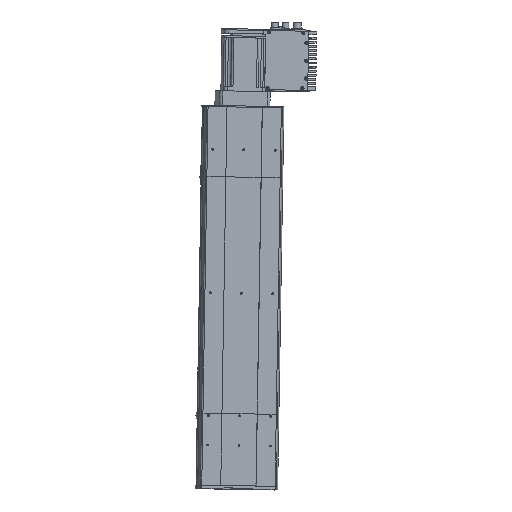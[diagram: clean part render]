
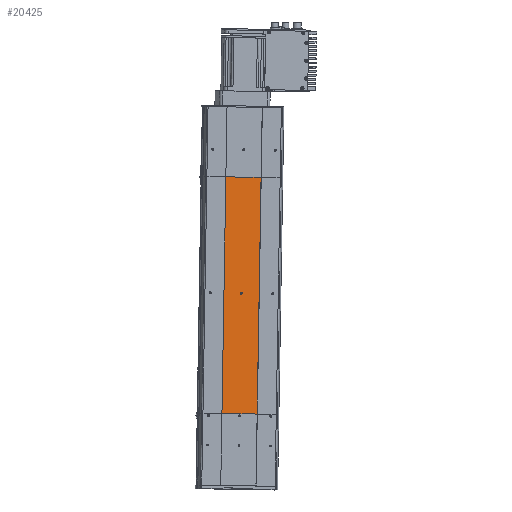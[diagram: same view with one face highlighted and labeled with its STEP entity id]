
A CAD part, front view. The second image highlights one B-rep face of the part: STEP entity #20425.
In plain terms, the highlighted planar face has unit normal (0.098, -0.995, 0.002) as drawn and (0, -1, 0) by its records, which use the part's own axes.
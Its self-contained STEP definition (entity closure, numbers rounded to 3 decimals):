
#7171 = CARTESIAN_POINT ( 'NONE',  ( -30., -32.5, 350. ) ) ;
#7268 = CARTESIAN_POINT ( 'NONE',  ( -30., -32.5, -50. ) ) ;
#7615 = DIRECTION ( 'NONE',  ( 0., 0., -1. ) ) ;
#7616 = VECTOR ( 'NONE', #7615, 1000. ) ;
#7617 = CARTESIAN_POINT ( 'NONE',  ( 30., -32.5, 350. ) ) ;
#7620 = LINE ( 'NONE', #7617, #7616 ) ;
#7691 = DIRECTION ( 'NONE',  ( 0., 0., -1. ) ) ;
#7692 = DIRECTION ( 'NONE',  ( 0., -1., 0. ) ) ;
#7694 = CARTESIAN_POINT ( 'NONE',  ( 0., -32.5, 153.7 ) ) ;
#7696 = AXIS2_PLACEMENT_3D ( 'NONE', #7694, #7692, #7691 ) ;
#7698 = CIRCLE ( 'NONE', #7696, 1.6 ) ;
#7796 = DIRECTION ( 'NONE',  ( 0., 0., -1. ) ) ;
#7797 = VECTOR ( 'NONE', #7796, 1000. ) ;
#7799 = CARTESIAN_POINT ( 'NONE',  ( -30., -32.5, 350. ) ) ;
#7809 = LINE ( 'NONE', #7799, #7797 ) ;
#18689 = ORIENTED_EDGE ( 'NONE', *, *, #33734, .F. ) ;
#20415 = EDGE_CURVE ( 'NONE', #33805, #20460, #57400, .T. ) ;
#20421 = VERTEX_POINT ( 'NONE', #57395 ) ;
#20424 = ORIENTED_EDGE ( 'NONE', *, *, #20440, .F. ) ;
#20425 = ADVANCED_FACE ( 'NONE', ( #57535, #57529 ), #57524, .F. ) ;
#20431 = EDGE_LOOP ( 'NONE', ( #20439, #18689, #20424, #20673 ) ) ;
#20439 = ORIENTED_EDGE ( 'NONE', *, *, #20415, .T. ) ;
#20440 = EDGE_CURVE ( 'NONE', #33670, #20421, #57606, .T. ) ;
#20460 = VERTEX_POINT ( 'NONE', #57759 ) ;
#20673 = ORIENTED_EDGE ( 'NONE', *, *, #33754, .T. ) ;
#22832 = DIRECTION ( 'NONE',  ( 0., 0., -1. ) ) ;
#22833 = DIRECTION ( 'NONE',  ( 0., -1., 0. ) ) ;
#22834 = CARTESIAN_POINT ( 'NONE',  ( 0., -32.5, 153.7 ) ) ;
#22835 = AXIS2_PLACEMENT_3D ( 'NONE', #22834, #22833, #22832 ) ;
#22838 = CIRCLE ( 'NONE', #22835, 1.6 ) ;
#23096 = CARTESIAN_POINT ( 'NONE',  ( 0., -32.5, 152.1 ) ) ;
#23518 = CARTESIAN_POINT ( 'NONE',  ( 0., -32.5, 155.3 ) ) ;
#23642 = EDGE_LOOP ( 'NONE', ( #33774, #33742 ) ) ;
#33670 = VERTEX_POINT ( 'NONE', #7171 ) ;
#33734 = EDGE_CURVE ( 'NONE', #20421, #20460, #7620, .T. ) ;
#33742 = ORIENTED_EDGE ( 'NONE', *, *, #45484, .F. ) ;
#33751 = EDGE_CURVE ( 'NONE', #45522, #45626, #7698, .T. ) ;
#33754 = EDGE_CURVE ( 'NONE', #33670, #33805, #7809, .T. ) ;
#33774 = ORIENTED_EDGE ( 'NONE', *, *, #33751, .F. ) ;
#33805 = VERTEX_POINT ( 'NONE', #7268 ) ;
#45484 = EDGE_CURVE ( 'NONE', #45626, #45522, #22838, .T. ) ;
#45522 = VERTEX_POINT ( 'NONE', #23096 ) ;
#45626 = VERTEX_POINT ( 'NONE', #23518 ) ;
#57395 = CARTESIAN_POINT ( 'NONE',  ( 30., -32.5, 350. ) ) ;
#57400 = LINE ( 'NONE', #57404, #57402 ) ;
#57402 = VECTOR ( 'NONE', #57545, 1000. ) ;
#57404 = CARTESIAN_POINT ( 'NONE',  ( -30., -32.5, -50. ) ) ;
#57408 = AXIS2_PLACEMENT_3D ( 'NONE', #57513, #57490, #57489 ) ;
#57489 = DIRECTION ( 'NONE',  ( 0., 0., 1. ) ) ;
#57490 = DIRECTION ( 'NONE',  ( 0., 1., 0. ) ) ;
#57513 = CARTESIAN_POINT ( 'NONE',  ( -30., -32.5, 350. ) ) ;
#57524 = PLANE ( 'NONE',  #57408 ) ;
#57529 = FACE_BOUND ( 'NONE', #23642, .T. ) ;
#57535 = FACE_OUTER_BOUND ( 'NONE', #20431, .T. ) ;
#57545 = DIRECTION ( 'NONE',  ( 1., 0., 0. ) ) ;
#57570 = DIRECTION ( 'NONE',  ( 1., 0., 0. ) ) ;
#57572 = VECTOR ( 'NONE', #57570, 1000. ) ;
#57604 = CARTESIAN_POINT ( 'NONE',  ( -30., -32.5, 350. ) ) ;
#57606 = LINE ( 'NONE', #57604, #57572 ) ;
#57759 = CARTESIAN_POINT ( 'NONE',  ( 30., -32.5, -50. ) ) ;
